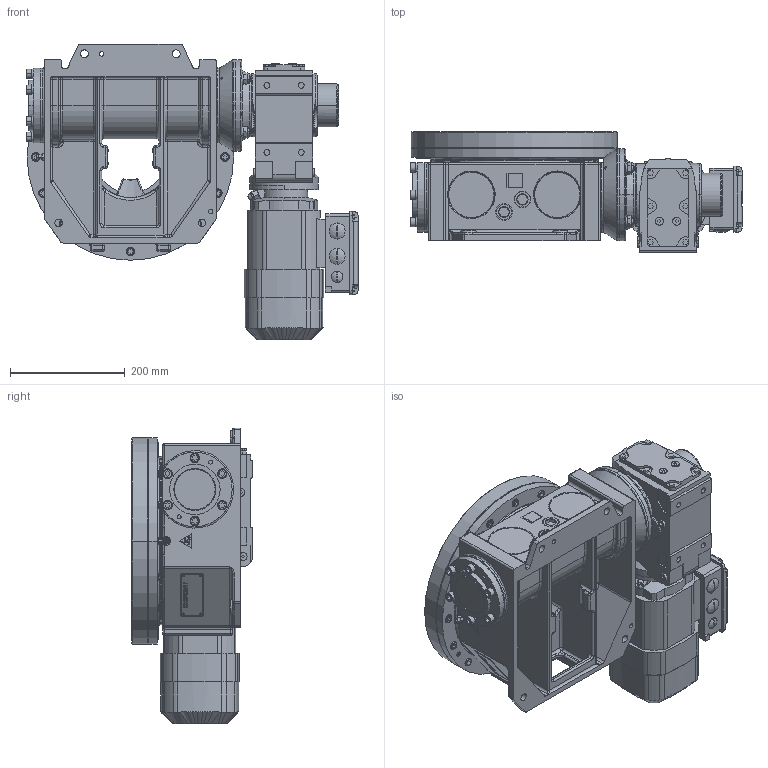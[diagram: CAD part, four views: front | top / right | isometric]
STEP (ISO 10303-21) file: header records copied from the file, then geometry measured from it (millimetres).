
FILE_DESCRIPTION((''),'2;1');
FILE_NAME('A7377','2010-04-21T',('mmueller'),('EXPERT Maschinenbau GmbH'),'PRO/ENGINEER BY PARAMETRIC TECHNOLOGY CORPORATION, 2007390','PRO/ENGINEER BY PARAMETRIC TECHNOLOGY CORPORATION, 2007390','');
FILE_SCHEMA(('CONFIG_CONTROL_DESIGN'));
Products named in the file (1): A7377
Bounding box: 579 x 210 x 516 mm (x, y, z)
Surface area: 1161286 mm2 (no closed solid volume)
Topology: 0 solids, 157 shells, 2051 faces, 6201 edges, 4289 vertices
Faces by surface type: plane 812, cylinder 677, bspline 219, cone 184, torus 131, sphere 28
Entity records: 78172 total; most frequent: CARTESIAN_POINT 24051, DIRECTION 11056, ORIENTED_EDGE 10560, EDGE_CURVE 6147, VERTEX_POINT 4289, AXIS2_PLACEMENT_3D 3878, VECTOR 3300, LINE 3300
